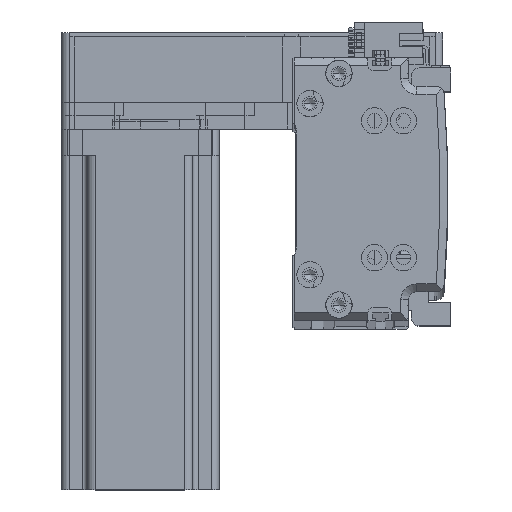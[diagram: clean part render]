
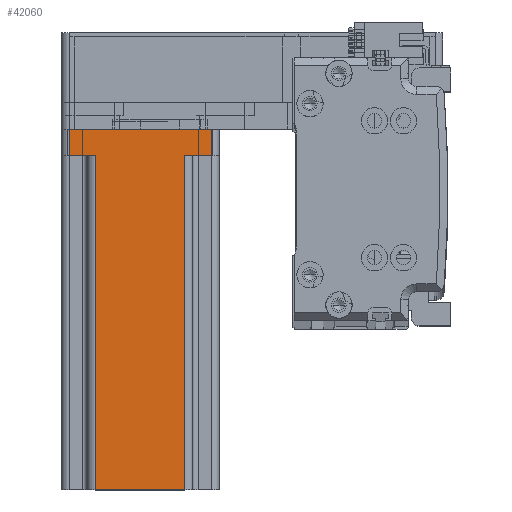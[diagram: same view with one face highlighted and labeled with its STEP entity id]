
A CAD part, top view. The second image highlights one B-rep face of the part: STEP entity #42060.
In plain terms, the highlighted planar face has unit normal (0, 0, 1) as drawn and (0, -1, 0) by its records, which use the part's own axes.
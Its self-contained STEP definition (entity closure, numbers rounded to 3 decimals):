
#1151 = ORIENTED_EDGE ( 'NONE', *, *, #23653, .T. ) ;
#6478 = CARTESIAN_POINT ( 'NONE',  ( -17., -30., 137. ) ) ;
#7190 = CARTESIAN_POINT ( 'NONE',  ( -27., -30., 137. ) ) ;
#8300 = VERTEX_POINT ( 'NONE', #50391 ) ;
#9292 = ORIENTED_EDGE ( 'NONE', *, *, #34344, .T. ) ;
#9342 = CARTESIAN_POINT ( 'NONE',  ( 27., -30., 137. ) ) ;
#10326 = DIRECTION ( 'NONE',  ( 1., 0., 0. ) ) ;
#12033 = CARTESIAN_POINT ( 'NONE',  ( 27., -30., 0. ) ) ;
#12276 = EDGE_CURVE ( 'NONE', #40831, #8300, #13799, .T. ) ;
#13254 = CARTESIAN_POINT ( 'NONE',  ( -17., -30., 10. ) ) ;
#13799 = LINE ( 'NONE', #55049, #39677 ) ;
#13840 = VECTOR ( 'NONE', #33629, 1000. ) ;
#14394 = CARTESIAN_POINT ( 'NONE',  ( 27., -30., 10. ) ) ;
#16231 = ORIENTED_EDGE ( 'NONE', *, *, #23026, .T. ) ;
#16851 = EDGE_LOOP ( 'NONE', ( #19366, #16231, #47183, #1151, #9292, #31454, #27489, #45326 ) ) ;
#17876 = CARTESIAN_POINT ( 'NONE',  ( -27., -30., 10. ) ) ;
#18068 = CARTESIAN_POINT ( 'NONE',  ( 30., -30., 0. ) ) ;
#18285 = DIRECTION ( 'NONE',  ( 0., 1., 0. ) ) ;
#18592 = VECTOR ( 'NONE', #24368, 1000. ) ;
#18623 = EDGE_CURVE ( 'NONE', #49672, #38090, #31545, .T. ) ;
#19366 = ORIENTED_EDGE ( 'NONE', *, *, #12276, .F. ) ;
#20095 = CARTESIAN_POINT ( 'NONE',  ( -17., -30., 137. ) ) ;
#23026 = EDGE_CURVE ( 'NONE', #40831, #29968, #38077, .T. ) ;
#23653 = EDGE_CURVE ( 'NONE', #56156, #49302, #57737, .T. ) ;
#24368 = DIRECTION ( 'NONE',  ( -1., 0., 0. ) ) ;
#25790 = VERTEX_POINT ( 'NONE', #12033 ) ;
#27489 = ORIENTED_EDGE ( 'NONE', *, *, #18623, .T. ) ;
#27834 = PLANE ( 'NONE',  #29156 ) ;
#28249 = CARTESIAN_POINT ( 'NONE',  ( 17., -30., 137. ) ) ;
#28302 = LINE ( 'NONE', #9342, #13840 ) ;
#29156 = AXIS2_PLACEMENT_3D ( 'NONE', #47371, #18285, #52277 ) ;
#29968 = VERTEX_POINT ( 'NONE', #13254 ) ;
#31454 = ORIENTED_EDGE ( 'NONE', *, *, #50625, .T. ) ;
#31545 = LINE ( 'NONE', #43686, #18592 ) ;
#31864 = VECTOR ( 'NONE', #46119, 1000. ) ;
#33629 = DIRECTION ( 'NONE',  ( 0., 0., 1. ) ) ;
#34344 = EDGE_CURVE ( 'NONE', #49302, #25790, #51823, .T. ) ;
#34433 = EDGE_CURVE ( 'NONE', #38090, #8300, #47221, .T. ) ;
#35869 = VECTOR ( 'NONE', #57389, 1000. ) ;
#37381 = VECTOR ( 'NONE', #56760, 1000. ) ;
#38077 = LINE ( 'NONE', #20095, #39602 ) ;
#38090 = VERTEX_POINT ( 'NONE', #51345 ) ;
#39424 = CARTESIAN_POINT ( 'NONE',  ( -20., -30., 10. ) ) ;
#39602 = VECTOR ( 'NONE', #49164, 1000. ) ;
#39677 = VECTOR ( 'NONE', #59965, 1000. ) ;
#40587 = CARTESIAN_POINT ( 'NONE',  ( -27., -30., 0. ) ) ;
#40831 = VERTEX_POINT ( 'NONE', #6478 ) ;
#42060 = ADVANCED_FACE ( 'NONE', ( #46219 ), #27834, .F. ) ;
#43686 = CARTESIAN_POINT ( 'NONE',  ( 20., -30., 10. ) ) ;
#45326 = ORIENTED_EDGE ( 'NONE', *, *, #34433, .T. ) ;
#46119 = DIRECTION ( 'NONE',  ( 0., 0., -1. ) ) ;
#46219 = FACE_OUTER_BOUND ( 'NONE', #16851, .T. ) ;
#47183 = ORIENTED_EDGE ( 'NONE', *, *, #63080, .F. ) ;
#47221 = LINE ( 'NONE', #28249, #35869 ) ;
#47371 = CARTESIAN_POINT ( 'NONE',  ( 30., -30., 137. ) ) ;
#49164 = DIRECTION ( 'NONE',  ( 0., 0., -1. ) ) ;
#49302 = VERTEX_POINT ( 'NONE', #40587 ) ;
#49672 = VERTEX_POINT ( 'NONE', #14394 ) ;
#50391 = CARTESIAN_POINT ( 'NONE',  ( 17., -30., 137. ) ) ;
#50625 = EDGE_CURVE ( 'NONE', #25790, #49672, #28302, .T. ) ;
#51345 = CARTESIAN_POINT ( 'NONE',  ( 17., -30., 10. ) ) ;
#51823 = LINE ( 'NONE', #18068, #37381 ) ;
#52277 = DIRECTION ( 'NONE',  ( -1., 0., 0. ) ) ;
#55049 = CARTESIAN_POINT ( 'NONE',  ( 30., -30., 137. ) ) ;
#56156 = VERTEX_POINT ( 'NONE', #17876 ) ;
#56760 = DIRECTION ( 'NONE',  ( 1., 0., 0. ) ) ;
#57389 = DIRECTION ( 'NONE',  ( 0., 0., 1. ) ) ;
#57737 = LINE ( 'NONE', #7190, #31864 ) ;
#58963 = VECTOR ( 'NONE', #10326, 1000. ) ;
#59965 = DIRECTION ( 'NONE',  ( 1., 0., 0. ) ) ;
#60510 = LINE ( 'NONE', #39424, #58963 ) ;
#63080 = EDGE_CURVE ( 'NONE', #56156, #29968, #60510, .T. ) ;
